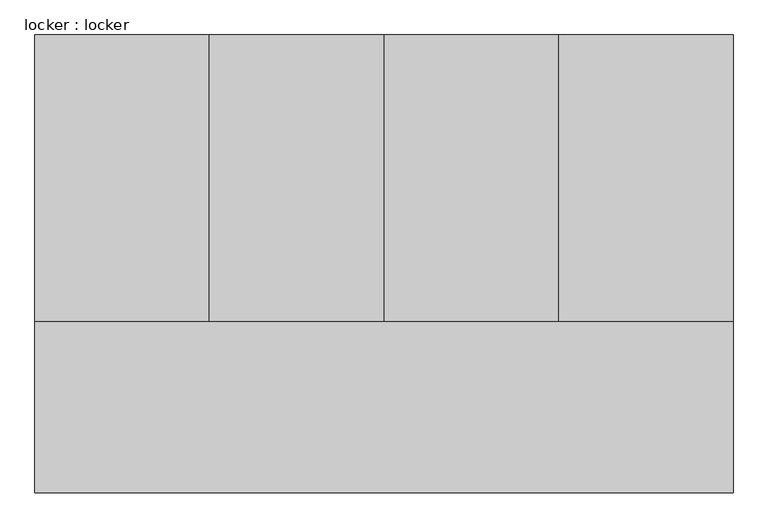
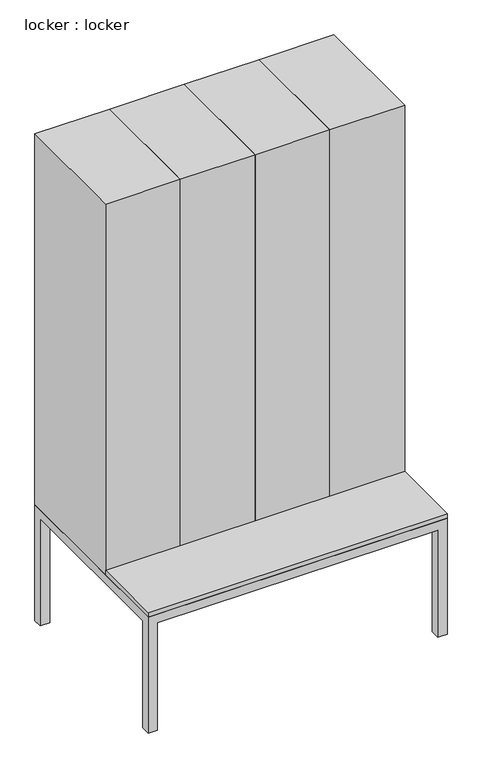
"""IFC4 building model written with IfcOpenShell, lengths in millimetres: proxy geometry, locker : locker."""

from ifc_helpers import new_model, si_unit, frame, origin, place, context, project, spatial, polyline, outline, extrude, faceted_brep, source, transform, mapped, element, save


def locker_locker_ffae811c(model_context):
    return source(origin(), model_context, "Body", "SolidModel", [
        faceted_brep([(-572.0, 800.0, 0.0), (-572.0, 762.0, 0.0), (-610.0, 762.0, 0.0), (-610.0, 800.0, 0.0), (610.0, 762.0, 0.0), (572.0, 762.0, 0.0), (572.0, 800.0, 0.0), (610.0, 800.0, 0.0), (610.0, 38.0, 0.0), (610.0, 0.0, 0.0), (572.0, 0.0, 0.0), (572.0, 38.0, 0.0), (-610.0, 38.0, 0.0), (-572.0, 38.0, 0.0), (-572.0, 0.0, 0.0), (-610.0, 0.0, 0.0), (-610.0, 800.0, 500.0), (610.0, 800.0, 500.0), (572.0, 800.0, 462.0), (-572.0, 800.0, 462.0), (-610.0, 762.0, 462.0), (-610.0, 38.0, 462.0), (-610.0, 0.0, 500.0), (-572.0, 762.0, 462.0), (610.0, 0.0, 500.0), (610.0, 38.0, 462.0), (610.0, 762.0, 462.0), (572.0, 762.0, 462.0), (572.0, 38.0, 462.0), (572.0, 0.0, 462.0), (-572.0, 0.0, 462.0), (-572.0, 38.0, 462.0), (-572.0, 762.0, 500.0), (572.0, 762.0, 500.0), (572.0, 38.0, 500.0), (-572.0, 38.0, 500.0)], [[[0, 1, 2, 3]], [[4, 5, 6, 7]], [[8, 9, 10, 11]], [[12, 13, 14, 15]], [[0, 3, 16, 17, 7, 6, 18, 19]], [[16, 3, 2, 20, 21, 12, 15, 22]], [[2, 1, 23, 20]], [[1, 0, 19, 23]], [[4, 7, 17, 24, 9, 8, 25, 26]], [[6, 5, 27, 18]], [[5, 4, 26, 27]], [[8, 11, 28, 25]], [[11, 10, 29, 28]], [[10, 9, 24, 22, 15, 14, 30, 29]], [[14, 13, 31, 30]], [[13, 12, 21, 31]], [[17, 16, 22, 24], [32, 33, 34, 35]], [[23, 31, 21, 20]], [[31, 28, 29, 30]], [[28, 27, 26, 25]], [[27, 23, 19, 18]], [[33, 32, 23, 27]], [[34, 33, 27, 28]], [[35, 34, 28, 31]], [[32, 35, 31, 23]]]),
        extrude(outline(polyline([(610.0, 300.0), (610.0, 0.0), (-610.0, 0.0), (-610.0, 300.0), (610.0, 300.0)])), frame((0.0, 0.0, 500.0), z_axis=(0.0, 0.0, 1.0), x_axis=(1.0, 0.0, 0.0)), (0.0, 0.0, 1.0), 20.0),
        extrude(outline(polyline([(610.0, 800.0), (610.0, 300.0), (305.0, 300.0), (305.0, 800.0), (610.0, 800.0)])), frame((0.0, 0.0, 500.0), z_axis=(0.0, 0.0, 1.0), x_axis=(1.0, 0.0, 0.0)), (0.0, 0.0, 1.0), 1600.0),
        extrude(outline(polyline([(305.0, 800.0), (305.0, 300.0), (0.0, 300.0), (0.0, 800.0), (305.0, 800.0)])), frame((0.0, 0.0, 500.0), z_axis=(0.0, 0.0, 1.0), x_axis=(1.0, 0.0, 0.0)), (0.0, 0.0, 1.0), 1600.0),
        extrude(outline(polyline([(0.0, 800.0), (0.0, 300.0), (-305.0, 300.0), (-305.0, 800.0), (0.0, 800.0)])), frame((0.0, 0.0, 500.0), z_axis=(0.0, 0.0, 1.0), x_axis=(1.0, 0.0, 0.0)), (0.0, 0.0, 1.0), 1600.0),
        extrude(outline(polyline([(-305.0, 800.0), (-305.0, 300.0), (-610.0, 300.0), (-610.0, 800.0), (-305.0, 800.0)])), frame((0.0, 0.0, 500.0), z_axis=(0.0, 0.0, 1.0), x_axis=(1.0, 0.0, 0.0)), (0.0, 0.0, 1.0), 1600.0),
    ])


if __name__ == "__main__":
    model = new_model("IFC4")
    model_context = context("Model", 3, world=origin())
    ifc_project = project(units=[si_unit("LENGTHUNIT", "METRE", prefix="MILLI")], contexts=[model_context])
    site = spatial("IfcSite", under=ifc_project)
    building = spatial("IfcBuilding", under=site)
    placement = place(None, origin())
    locker_locker_shape = locker_locker_ffae811c(model_context)
    element("IfcBuildingElementProxy", 1, Name="locker : locker", ObjectType="locker : locker", at=placement, inside=building, context=model_context, shape_type="MappedRepresentation", body=[
        mapped(locker_locker_shape, transform((0.0, 0.0, 0.0), x_axis=(1.0, 0.0, 0.0), y_axis=(0.0, 1.0, 0.0), z_axis=(0.0, 0.0, 1.0))),
    ])
    save(model, "model.ifc")
